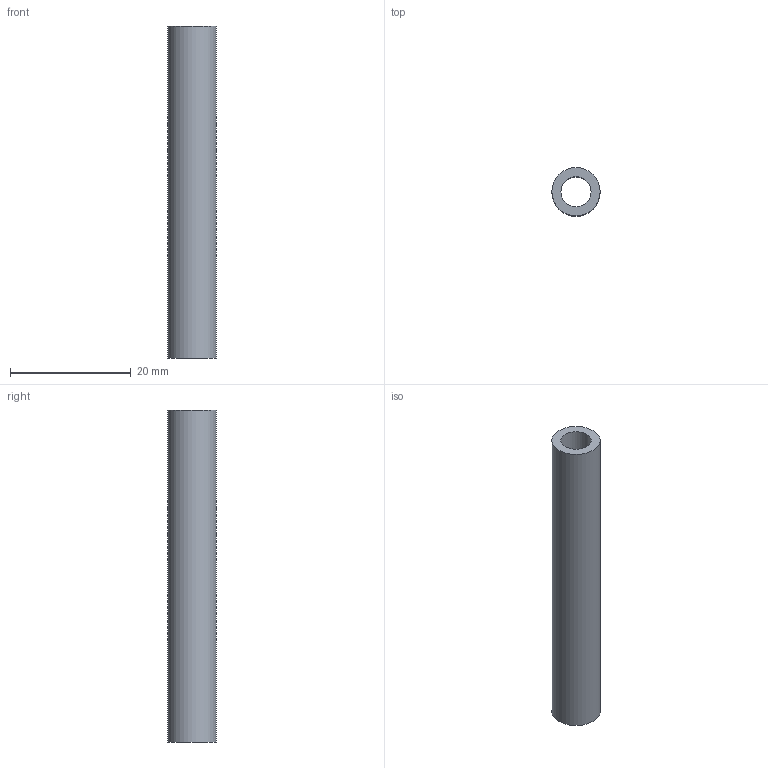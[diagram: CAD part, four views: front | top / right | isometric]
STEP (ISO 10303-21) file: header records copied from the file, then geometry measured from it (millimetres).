
FILE_DESCRIPTION(('Open CASCADE Model'),'2;1');
FILE_NAME('Open CASCADE Shape Model','2026-10-04T02:31:37',('Author'),( 'Open CASCADE'),'Open CASCADE STEP processor 8.0','Open CASCADE 8.0' ,'Unknown');
FILE_SCHEMA(('AUTOMOTIVE_DESIGN { 1 0 10303 214 1 1 1 1 }'));
Length unit declared in the file: millimetre
Products named in the file (1): Open CASCADE STEP translator 8.0 93
Bounding box: 8 x 8 x 55 mm (x, y, z)
Volume: 1684.7 mm3; surface area: 2307.5 mm2
Topology: 1 solids, 1 shells, 4 faces, 6 edges, 4 vertices
Faces by surface type: cylinder 2, plane 2
Full cylindrical faces by diameter (mm): 5 x1, 8 x1
Entity records: 186 total; most frequent: DIRECTION 32, CARTESIAN_POINT 27, ORIENTED_EDGE 12, PCURVE 12, DEFINITIONAL_REPRESENTATION 12, LINE 10, VECTOR 10, AXIS2_PLACEMENT_3D 9
